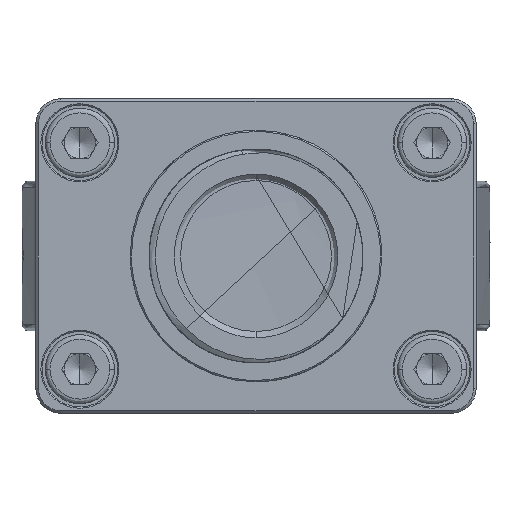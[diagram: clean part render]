
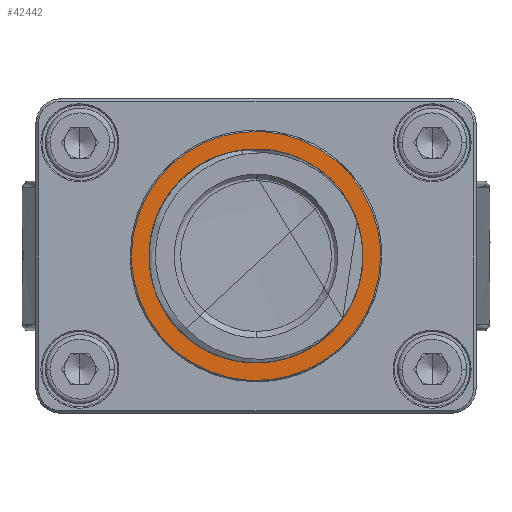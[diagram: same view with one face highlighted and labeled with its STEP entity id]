
A CAD part, front view. The second image highlights one B-rep face of the part: STEP entity #42442.
In plain terms, the highlighted planar face has unit normal (0, -1, 0).
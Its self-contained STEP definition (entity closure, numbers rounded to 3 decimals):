
#41 = CARTESIAN_POINT ( 'NONE',  ( -2.599, -52.5, -22.4 ) ) ;
#627 = CARTESIAN_POINT ( 'NONE',  ( 9.9, -52.5, -12.5 ) ) ;
#673 = CARTESIAN_POINT ( 'NONE',  ( 9.9, -52.5, -9.89 ) ) ;
#898 = CARTESIAN_POINT ( 'NONE',  ( 8.834, -52.5, -7.332 ) ) ;
#1121 = CARTESIAN_POINT ( 'NONE',  ( 5.16, -52.5, -3.66 ) ) ;
#1356 = CARTESIAN_POINT ( 'NONE',  ( 2.588, -52.5, -2.6 ) ) ;
#1585 = CARTESIAN_POINT ( 'NONE',  ( -2.599, -52.5, -2.6 ) ) ;
#1800 = CARTESIAN_POINT ( 'NONE',  ( -5.167, -52.5, -3.664 ) ) ;
#2025 = CARTESIAN_POINT ( 'NONE',  ( -8.833, -52.5, -7.334 ) ) ;
#2637 = CARTESIAN_POINT ( 'NONE',  ( 0., -52.5, -12.5 ) ) ;
#4241 = CARTESIAN_POINT ( 'NONE',  ( -9.9, -52.5, -12.5 ) ) ;
#4450 = CARTESIAN_POINT ( 'NONE',  ( -9.9, -52.5, -9.903 ) ) ;
#5169 = CARTESIAN_POINT ( 'NONE',  ( 0., -52.5, -12.5 ) ) ;
#5189 = CARTESIAN_POINT ( 'NONE',  ( -8.833, -52.5, -17.666 ) ) ;
#6440 = VERTEX_POINT ( 'NONE', #55948 ) ;
#7810 = DIRECTION ( 'NONE',  ( 0., 0., -1. ) ) ;
#9243 = EDGE_CURVE ( 'NONE', #55936, #6440, #33437, .T. ) ;
#9311 = CARTESIAN_POINT ( 'NONE',  ( 0., -52.5, -20.4 ) ) ;
#9554 = CARTESIAN_POINT ( 'NONE',  ( -9.9, -52.5, -12.5 ) ) ;
#9858 = EDGE_CURVE ( 'NONE', #61456, #17157, #46554, .T. ) ;
#10342 = DIRECTION ( 'NONE',  ( 0., 0., -1. ) ) ;
#10356 = CARTESIAN_POINT ( 'NONE',  ( -9.9, -52.5, -12.5 ) ) ;
#11171 = AXIS2_PLACEMENT_3D ( 'NONE', #2637, #38219, #7810 ) ;
#11575 = EDGE_LOOP ( 'NONE', ( #37223, #15918 ) ) ;
#13347 = CARTESIAN_POINT ( 'NONE',  ( 0., -52.5, -4.6 ) ) ;
#14697 = ORIENTED_EDGE ( 'NONE', *, *, #15556, .F. ) ;
#15556 = EDGE_CURVE ( 'NONE', #17157, #61456, #31291, .T. ) ;
#15918 = ORIENTED_EDGE ( 'NONE', *, *, #9243, .F. ) ;
#17157 = VERTEX_POINT ( 'NONE', #9311 ) ;
#20364 = CARTESIAN_POINT ( 'NONE',  ( 9.9, -52.5, -15.11 ) ) ;
#25475 = CARTESIAN_POINT ( 'NONE',  ( 8.834, -52.5, -17.668 ) ) ;
#26133 = AXIS2_PLACEMENT_3D ( 'NONE', #5169, #40697, #10342 ) ;
#27650 = ORIENTED_EDGE ( 'NONE', *, *, #9858, .F. ) ;
#28060 = DIRECTION ( 'NONE',  ( 0., 1., 0. ) ) ;
#30558 = CARTESIAN_POINT ( 'NONE',  ( 2.588, -52.5, -22.4 ) ) ;
#31291 = CIRCLE ( 'NONE', #11171, 7.9 ) ;
#33437 = B_SPLINE_CURVE_WITH_KNOTS ( 'NONE', 3,
 ( #4241, #4450, #2025, #1800, #1585, #1356, #1121, #898, #673, #627 ),
 .UNSPECIFIED., .F., .F.,
 ( 4, 2, 2, 2, 4 ),
 ( 0., 0.008, 0.016, 0.023, 0.031 ),
 .UNSPECIFIED. ) ;
#34141 = EDGE_LOOP ( 'NONE', ( #14697, #27650 ) ) ;
#35645 = CARTESIAN_POINT ( 'NONE',  ( -5.167, -52.5, -21.336 ) ) ;
#37223 = ORIENTED_EDGE ( 'NONE', *, *, #54551, .F. ) ;
#38219 = DIRECTION ( 'NONE',  ( 0., -1., 0. ) ) ;
#38228 = CARTESIAN_POINT ( 'NONE',  ( 10.019, -52.5, -22.519 ) ) ;
#40697 = DIRECTION ( 'NONE',  ( 0., -1., 0. ) ) ;
#40715 = CARTESIAN_POINT ( 'NONE',  ( -9.9, -52.5, -15.097 ) ) ;
#42442 = ADVANCED_FACE ( 'NONE', ( #42477, #54357 ), #43275, .F. ) ;
#42477 = FACE_OUTER_BOUND ( 'NONE', #11575, .T. ) ;
#43275 = PLANE ( 'NONE',  #55859 ) ;
#46554 = CIRCLE ( 'NONE', #26133, 7.9 ) ;
#48401 = DIRECTION ( 'NONE',  ( 0., 0., 1. ) ) ;
#54357 = FACE_BOUND ( 'NONE', #34141, .T. ) ;
#54551 = EDGE_CURVE ( 'NONE', #6440, #55936, #54563, .T. ) ;
#54563 = B_SPLINE_CURVE_WITH_KNOTS ( 'NONE', 3,
 ( #65809, #20364, #25475, #60924, #30558, #41, #35645, #5189, #40715, #10356 ),
 .UNSPECIFIED., .F., .F.,
 ( 4, 2, 2, 2, 4 ),
 ( 0., 0.008, 0.016, 0.023, 0.031 ),
 .UNSPECIFIED. ) ;
#55859 = AXIS2_PLACEMENT_3D ( 'NONE', #38228, #28060, #48401 ) ;
#55936 = VERTEX_POINT ( 'NONE', #9554 ) ;
#55948 = CARTESIAN_POINT ( 'NONE',  ( 9.9, -52.5, -12.5 ) ) ;
#60924 = CARTESIAN_POINT ( 'NONE',  ( 5.16, -52.5, -21.34 ) ) ;
#61456 = VERTEX_POINT ( 'NONE', #13347 ) ;
#65809 = CARTESIAN_POINT ( 'NONE',  ( 9.9, -52.5, -12.5 ) ) ;
